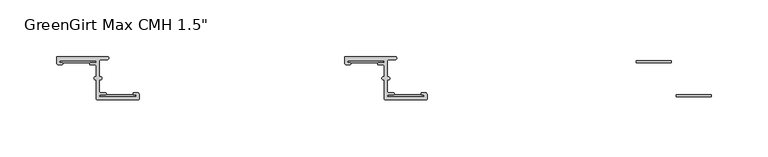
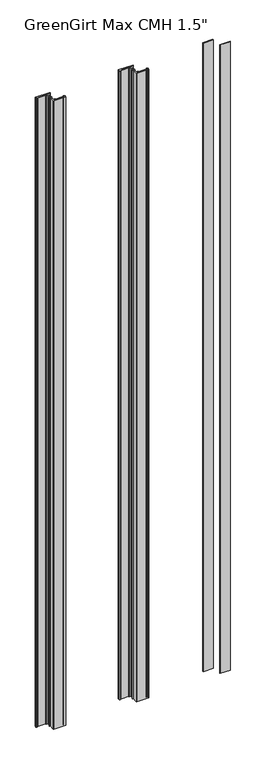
"""IFC4 building model written with IfcOpenShell, lengths in millimetres: fastener geometry."""

from ifc_helpers import new_model, si_unit, frame, origin, origin_with_axes, place, context, project, spatial, polyline, circle_curve, outline, extrude, source, transform, mapped, element, save
from ifc_brep_helpers import plane_surface, cylinder_surface, revolved_surface, advanced_brep


def fastener_929703bf(model_context):
    return source(origin(), model_context, "Body", "SolidModel", [
        extrude(outline(polyline([(1863.09, -3.556), (1863.09, -5.2832), (1832.102, -5.2832), (1832.102, -3.556), (1863.09, -3.556)])), origin_with_axes(), (0.0, 0.0, 1.0), 2032.0),
        extrude(outline(polyline([(1898.269, -33.7057766), (1898.269, -35.4329766), (1867.281, -35.4329766), (1867.281, -33.7057766), (1898.269, -33.7057766)])), origin_with_axes(), (0.0, 0.0, 1.0), 2032.0),
        advanced_brep(
        [(1578.102, -3.556, 2032.0), (1609.09, -3.556, 2032.0), (1609.09, -5.2832, 2032.0), (1604.899, -5.2832, 2032.0), (1604.899, -7.3152, 2032.0), (1609.09, -7.3152, 2032.0), (1609.852, -8.0772, 2032.0), (1609.852, -17.7601563, 2032.0), (1609.0035567, -17.7601563, 2032.0), (1609.0035567, -20.4288947, 2032.0), (1609.852, -20.4288947, 2032.0), (1609.852, -37.3379766, 2032.0), (1610.614, -38.0999766, 2032.0), (1646.8513242, -38.1, 2032.0), (1647.571, -37.3379766, 2032.0), (1647.571, -33.7057766, 2032.0), (1645.539, -31.6737766, 2032.0), (1643.253, -31.6737766, 2032.0), (1643.253, -33.7057766, 2032.0), (1644.269, -33.7057766, 2032.0), (1644.269, -35.4329766, 2032.0), (1613.281, -35.4329766, 2032.0), (1613.281, -33.7057766, 2032.0), (1617.472, -33.7057766, 2032.0), (1617.472, -31.6737766, 2032.0), (1613.281, -31.6737766, 2032.0), (1612.519, -30.9117766, 2032.0), (1612.519, -20.4279799, 2032.0), (1613.3679007, -20.4279799, 2032.0), (1613.3679007, -17.7601563, 2032.0), (1612.519, -17.7601563, 2032.0), (1612.519, -3.429, 2032.0), (1613.281, -2.667, 2032.0), (1619.377, -2.667, 2032.0), (1619.377, 0.0, 2032.0), (1575.562, 0.0, 2032.0), (1574.8, -0.762, 2032.0), (1574.8, -5.2832, 2032.0), (1576.832, -7.3152, 2032.0), (1579.118, -7.3152, 2032.0), (1579.118, -5.2832, 2032.0), (1578.102, -5.2832, 2032.0), (1578.102, -3.556, 0.0), (1578.102, -5.2832, 0.0), (1579.118, -5.2832, 0.0), (1579.118, -7.3152, 0.0), (1576.832, -7.3152, 0.0), (1574.8, -5.2832, 0.0), (1574.8, -0.762, 0.0), (1575.562, 0.0, 0.0), (1619.377, 0.0, 0.0), (1619.377, -2.667, 0.0), (1613.281, -2.667, 0.0), (1612.519, -3.429, 0.0), (1612.519, -17.7601563, 0.0), (1613.3679007, -17.7601563, 0.0), (1613.3679007, -20.4279799, 0.0), (1612.519, -20.4279799, 0.0), (1612.519, -30.9117766, 0.0), (1613.281, -31.6737766, 0.0), (1617.472, -31.6737766, 0.0), (1617.472, -33.7057766, 0.0), (1613.281, -33.7057766, 0.0), (1613.281, -35.4329766, 0.0), (1644.269, -35.4329766, 0.0), (1644.269, -33.7057766, 0.0), (1643.253, -33.7057766, 0.0), (1643.253, -31.6737766, 0.0), (1645.539, -31.6737766, 0.0), (1647.571, -33.7057766, 0.0), (1647.571, -37.3379766, 0.0), (1646.809, -38.0999766, 0.0), (1610.7467826, -38.1, 0.0), (1609.852, -37.3379766, 0.0), (1609.852, -20.4288947, 0.0), (1609.0035567, -20.4288947, 0.0), (1609.0035567, -17.7601563, 0.0), (1609.852, -17.7601563, 0.0), (1609.852, -8.0772, 0.0), (1609.09, -7.3152, 0.0), (1604.899, -7.3152, 0.0), (1604.899, -5.2832, 0.0), (1609.09, -5.2832, 0.0), (1609.09, -3.556, 0.0)],
        [
            (0, 1),
            (1, 2, circle_curve(frame((1609.09, -4.4196, 2032.0), z_axis=(0.0, 0.0, -1.0), x_axis=(1.0, 0.0, 0.0)), 0.8636)),
            (2, 3),
            (3, 4, circle_curve(frame((1604.899, -6.2992, 2032.0), z_axis=(0.0, 0.0, 1.0), x_axis=(1.0, 0.0, 0.0)), 1.016)),
            (4, 5),
            (5, 6, circle_curve(frame((1609.09, -8.0772, 2032.0), z_axis=(0.0, 0.0, -1.0), x_axis=(1.0, 0.0, 0.0)), 0.762)),
            (6, 7),
            (7, 8),
            (8, 9, circle_curve(frame((1609.0035567, -19.0945255, 2032.0), z_axis=(0.0, 0.0, 1.0), x_axis=(1.0, 0.0, 0.0)), 1.3343692)),
            (9, 10),
            (10, 11),
            (11, 12, circle_curve(frame((1610.614, -37.3379766, 2032.0), z_axis=(0.0, 0.0, 1.0), x_axis=(1.0, 0.0, 0.0)), 0.762)),
            (12, 13),
            (13, 14, circle_curve(frame((1646.809, -37.3379766, 2032.0), z_axis=(0.0, 0.0, 1.0), x_axis=(1.0, 0.0, 0.0)), 0.762)),
            (14, 15),
            (15, 16, circle_curve(frame((1645.539, -33.7057766, 2032.0), z_axis=(0.0, 0.0, 1.0), x_axis=(1.0, 0.0, 0.0)), 2.032)),
            (16, 17),
            (17, 18, circle_curve(frame((1643.253, -32.6897766, 2032.0), z_axis=(0.0, 0.0, 1.0), x_axis=(1.0, 0.0, 0.0)), 1.016)),
            (18, 19),
            (19, 20, circle_curve(frame((1644.269, -34.5693766, 2032.0), z_axis=(0.0, 0.0, -1.0), x_axis=(1.0, 0.0, 0.0)), 0.8636)),
            (20, 21),
            (21, 22, circle_curve(frame((1613.281, -34.5693766, 2032.0), z_axis=(0.0, 0.0, -1.0), x_axis=(1.0, 0.0, 0.0)), 0.8636)),
            (22, 23),
            (23, 24, circle_curve(frame((1617.472, -32.6897766, 2032.0), z_axis=(0.0, 0.0, 1.0), x_axis=(1.0, 0.0, 0.0)), 1.016)),
            (24, 25),
            (25, 26, circle_curve(frame((1613.281, -30.9117766, 2032.0), z_axis=(0.0, 0.0, -1.0), x_axis=(1.0, 0.0, 0.0)), 0.762)),
            (26, 27),
            (27, 28),
            (28, 29, circle_curve(frame((1613.3679007, -19.0940681, 2032.0), z_axis=(0.0, 0.0, 1.0), x_axis=(1.0, 0.0, 0.0)), 1.3339118)),
            (29, 30),
            (30, 31),
            (31, 32, circle_curve(frame((1613.281, -3.429, 2032.0), z_axis=(0.0, 0.0, -1.0), x_axis=(1.0, 0.0, 0.0)), 0.762)),
            (32, 33),
            (33, 34, circle_curve(frame((1619.377, -1.3335, 2032.0), z_axis=(0.0, 0.0, 1.0), x_axis=(1.0, 0.0, 0.0)), 1.3335)),
            (34, 35),
            (35, 36, circle_curve(frame((1575.562, -0.762, 2032.0), z_axis=(0.0, 0.0, 1.0), x_axis=(1.0, 0.0, 0.0)), 0.762)),
            (36, 37),
            (37, 38, circle_curve(frame((1576.832, -5.2832, 2032.0), z_axis=(0.0, 0.0, 1.0), x_axis=(1.0, 0.0, 0.0)), 2.032)),
            (38, 39),
            (39, 40, circle_curve(frame((1579.118, -6.2992, 2032.0), z_axis=(0.0, 0.0, 1.0), x_axis=(1.0, 0.0, 0.0)), 1.016)),
            (40, 41),
            (41, 0, circle_curve(frame((1578.102, -4.4196, 2032.0), z_axis=(0.0, 0.0, -1.0), x_axis=(1.0, 0.0, 0.0)), 0.8636)),
            (42, 43, circle_curve(frame((1578.102, -4.4196, 0.0), z_axis=(0.0, 0.0, 1.0), x_axis=(1.0, 0.0, 0.0)), 0.8636)),
            (43, 44),
            (44, 45, circle_curve(frame((1579.118, -6.2992, 0.0), z_axis=(0.0, 0.0, -1.0), x_axis=(1.0, 0.0, 0.0)), 1.016)),
            (45, 46),
            (46, 47, circle_curve(frame((1576.832, -5.2832, 0.0), z_axis=(0.0, 0.0, -1.0), x_axis=(1.0, 0.0, 0.0)), 2.032)),
            (47, 48),
            (48, 49, circle_curve(frame((1575.562, -0.762, 0.0), z_axis=(0.0, 0.0, -1.0), x_axis=(1.0, 0.0, 0.0)), 0.762)),
            (49, 50),
            (50, 51, circle_curve(frame((1619.377, -1.3335, 0.0), z_axis=(0.0, 0.0, -1.0), x_axis=(1.0, 0.0, 0.0)), 1.3335)),
            (51, 52),
            (52, 53, circle_curve(frame((1613.281, -3.429, 0.0), z_axis=(0.0, 0.0, 1.0), x_axis=(1.0, 0.0, 0.0)), 0.762)),
            (53, 54),
            (54, 55),
            (55, 56, circle_curve(frame((1613.3679007, -19.0940681, 0.0), z_axis=(0.0, 0.0, -1.0), x_axis=(1.0, 0.0, 0.0)), 1.3339118)),
            (56, 57),
            (57, 58),
            (58, 59, circle_curve(frame((1613.281, -30.9117766, 0.0), z_axis=(0.0, 0.0, 1.0), x_axis=(1.0, 0.0, 0.0)), 0.762)),
            (59, 60),
            (60, 61, circle_curve(frame((1617.472, -32.6897766, 0.0), z_axis=(0.0, 0.0, -1.0), x_axis=(1.0, 0.0, 0.0)), 1.016)),
            (61, 62),
            (62, 63, circle_curve(frame((1613.281, -34.5693766, 0.0), z_axis=(0.0, 0.0, 1.0), x_axis=(1.0, 0.0, 0.0)), 0.8636)),
            (63, 64),
            (64, 65, circle_curve(frame((1644.269, -34.5693766, 0.0), z_axis=(0.0, 0.0, 1.0), x_axis=(1.0, 0.0, 0.0)), 0.8636)),
            (65, 66),
            (66, 67, circle_curve(frame((1643.253, -32.6897766, 0.0), z_axis=(0.0, 0.0, -1.0), x_axis=(1.0, 0.0, 0.0)), 1.016)),
            (67, 68),
            (68, 69, circle_curve(frame((1645.539, -33.7057766, 0.0), z_axis=(0.0, 0.0, -1.0), x_axis=(1.0, 0.0, 0.0)), 2.032)),
            (69, 70),
            (70, 71, circle_curve(frame((1646.809, -37.3379766, 0.0), z_axis=(0.0, 0.0, -1.0), x_axis=(1.0, 0.0, 0.0)), 0.762)),
            (71, 72),
            (72, 73, circle_curve(frame((1610.614, -37.3379766, 0.0), z_axis=(0.0, 0.0, -1.0), x_axis=(1.0, 0.0, 0.0)), 0.762)),
            (73, 74),
            (74, 75),
            (75, 76, circle_curve(frame((1609.0035567, -19.0945255, 0.0), z_axis=(0.0, 0.0, -1.0), x_axis=(1.0, 0.0, 0.0)), 1.3343692)),
            (76, 77),
            (77, 78),
            (78, 79, circle_curve(frame((1609.09, -8.0772, 0.0), z_axis=(0.0, 0.0, 1.0), x_axis=(1.0, 0.0, 0.0)), 0.762)),
            (79, 80),
            (80, 81, circle_curve(frame((1604.899, -6.2992, 0.0), z_axis=(0.0, 0.0, -1.0), x_axis=(1.0, 0.0, 0.0)), 1.016)),
            (81, 82),
            (82, 83, circle_curve(frame((1609.09, -4.4196, 0.0), z_axis=(0.0, 0.0, 1.0), x_axis=(1.0, 0.0, 0.0)), 0.8636)),
            (83, 42),
            (0, 42),
            (83, 1),
            (82, 2),
            (81, 3),
            (80, 4),
            (79, 5),
            (78, 6),
            (77, 7),
            (76, 8),
            (75, 9),
            (74, 10),
            (73, 11),
            (72, 12),
            (71, 13),
            (70, 14),
            (69, 15),
            (68, 16),
            (67, 17),
            (66, 18),
            (65, 19),
            (64, 20),
            (63, 21),
            (62, 22),
            (61, 23),
            (60, 24),
            (59, 25),
            (58, 26),
            (57, 27),
            (56, 28),
            (55, 29),
            (54, 30),
            (53, 31),
            (52, 32),
            (51, 33),
            (50, 34),
            (49, 35),
            (48, 36),
            (47, 37),
            (46, 38),
            (45, 39),
            (44, 40),
            (43, 41),
        ],
        [
            plane_surface(frame((1609.09, -3.556, 2032.0), z_axis=(0.0, 0.0, 1.0), x_axis=(1.0, 0.0, 0.0))),
            plane_surface(frame((1609.09, -3.556, 0.0), z_axis=(0.0, 0.0, -1.0), x_axis=(-1.0, 0.0, 0.0))),
            plane_surface(frame((1578.102, -3.556, 2032.0), z_axis=(0.0, -1.0, 0.0), x_axis=(0.0, 0.0, -1.0))),
            revolved_surface(polyline([(1609.9535999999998, -4.4196, 0.0), (1609.9535999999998, -4.4196, 2032.0)]), (1609.09, -4.4196, 0.0), (0.0, 0.0, -1.0)),
            plane_surface(frame((1609.09, -5.2832, 2032.0), z_axis=(0.0, 1.0, 0.0), x_axis=(0.0, 0.0, -1.0))),
            cylinder_surface(frame((1604.899, -6.2992, 0.0), z_axis=(0.0, 0.0, 1.0), x_axis=(1.0, 0.0, 0.0)), 1.016),
            plane_surface(frame((1604.899, -7.3152, 2032.0), z_axis=(0.0, -1.0, 0.0), x_axis=(0.0, 0.0, -1.0))),
            revolved_surface(polyline([(1609.8519999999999, -8.0772, 0.0), (1609.8519999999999, -8.0772, 2032.0)]), (1609.09, -8.0772, 0.0), (0.0, 0.0, -1.0)),
            plane_surface(frame((1609.852, -8.0772, 2032.0), z_axis=(-1.0, 0.0, 0.0), x_axis=(0.0, 0.0, -1.0))),
            plane_surface(frame((1609.852, -17.7601563, 2032.0), z_axis=(0.0, 1.0, 0.0), x_axis=(0.0, 0.0, -1.0))),
            cylinder_surface(frame((1609.0035567, -19.0945255, 0.0), z_axis=(0.0, 0.0, 1.0), x_axis=(1.0, 0.0, 0.0)), 1.3343692),
            plane_surface(frame((1609.0035567, -20.4288947, 2032.0), z_axis=(0.0, -1.0, 0.0), x_axis=(0.0, 0.0, -1.0))),
            plane_surface(frame((1609.852, -20.4288947, 2032.0), z_axis=(-1.0, 0.0, 0.0), x_axis=(0.0, 0.0, -1.0))),
            cylinder_surface(frame((1610.614, -37.3379766, 0.0), z_axis=(0.0, 0.0, 1.0), x_axis=(1.0, 0.0, 0.0)), 0.762),
            plane_surface(frame((1610.7467826, -38.1, 2032.0), z_axis=(0.0, -1.0, 0.0), x_axis=(0.0, 0.0, -1.0))),
            cylinder_surface(frame((1646.809, -37.3379766, 0.0), z_axis=(0.0, 0.0, 1.0), x_axis=(1.0, 0.0, 0.0)), 0.762),
            plane_surface(frame((1647.571, -37.3379766, 2032.0), z_axis=(1.0, 1.094695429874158e-12, 0.0), x_axis=(0.0, 0.0, -1.0))),
            cylinder_surface(frame((1645.539, -33.7057766, 0.0), z_axis=(0.0, 0.0, 1.0), x_axis=(1.0, 0.0, 0.0)), 2.032),
            plane_surface(frame((1645.539, -31.6737766, 2032.0), z_axis=(0.0, 1.0, 0.0), x_axis=(0.0, 0.0, -1.0))),
            cylinder_surface(frame((1643.253, -32.6897766, 0.0), z_axis=(0.0, 0.0, 1.0), x_axis=(1.0, 0.0, 0.0)), 1.016),
            plane_surface(frame((1643.253, -33.7057766, 2032.0), z_axis=(0.0, -1.0, 0.0), x_axis=(0.0, 0.0, -1.0))),
            revolved_surface(polyline([(1645.1326, -34.5693766, 0.0), (1645.1326, -34.5693766, 2032.0)]), (1644.269, -34.5693766, 0.0), (0.0, 0.0, -1.0)),
            plane_surface(frame((1644.269, -35.4329766, 2032.0), z_axis=(0.0, 1.0, 0.0), x_axis=(0.0, 0.0, -1.0))),
            revolved_surface(polyline([(1614.1445999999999, -34.5693766, 0.0), (1614.1445999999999, -34.5693766, 2032.0)]), (1613.281, -34.5693766, 0.0), (0.0, 0.0, -1.0)),
            plane_surface(frame((1613.281, -33.7057766, 2032.0), z_axis=(0.0, -1.0, 0.0), x_axis=(0.0, 0.0, -1.0))),
            cylinder_surface(frame((1617.472, -32.6897766, 0.0), z_axis=(0.0, 0.0, 1.0), x_axis=(1.0, 0.0, 0.0)), 1.016),
            plane_surface(frame((1617.472, -31.6737766, 2032.0), z_axis=(0.0, 1.0, 0.0), x_axis=(0.0, 0.0, -1.0))),
            revolved_surface(polyline([(1614.043, -30.9117766, 0.0), (1614.043, -30.9117766, 2032.0)]), (1613.281, -30.9117766, 0.0), (0.0, 0.0, -1.0)),
            plane_surface(frame((1612.519, -30.9117766, 2032.0), z_axis=(1.0, 0.0, 0.0), x_axis=(0.0, 0.0, -1.0))),
            plane_surface(frame((1612.519, -20.4279799, 2032.0), z_axis=(0.0, -1.0, 0.0), x_axis=(0.0, 0.0, -1.0))),
            cylinder_surface(frame((1613.3679007, -19.0940681, 0.0), z_axis=(0.0, 0.0, 1.0), x_axis=(1.0, 0.0, 0.0)), 1.3339118),
            plane_surface(frame((1613.3679007, -17.7601563, 2032.0), z_axis=(0.0, 1.0, 0.0), x_axis=(0.0, 0.0, -1.0))),
            plane_surface(frame((1612.519, -17.7601563, 2032.0), z_axis=(1.0, 0.0, 0.0), x_axis=(0.0, 0.0, -1.0))),
            revolved_surface(polyline([(1614.043, -3.429, 0.0), (1614.043, -3.429, 2032.0)]), (1613.281, -3.429, 0.0), (0.0, 0.0, -1.0)),
            plane_surface(frame((1613.281, -2.667, 2032.0), z_axis=(0.0, -1.0, 0.0), x_axis=(0.0, 0.0, -1.0))),
            cylinder_surface(frame((1619.377, -1.3335, 0.0), z_axis=(0.0, 0.0, 1.0), x_axis=(1.0, 0.0, 0.0)), 1.3335),
            plane_surface(frame((1619.377, 0.0, 2032.0), z_axis=(0.0, 1.0, 0.0), x_axis=(0.0, 0.0, -1.0))),
            cylinder_surface(frame((1575.562, -0.762, 0.0), z_axis=(0.0, 0.0, 1.0), x_axis=(1.0, 0.0, 0.0)), 0.762),
            plane_surface(frame((1574.8, -0.762, 2032.0), z_axis=(-1.0, 1.1909948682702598e-12, 0.0), x_axis=(0.0, 0.0, -1.0))),
            cylinder_surface(frame((1576.832, -5.2832, 0.0), z_axis=(0.0, 0.0, 1.0), x_axis=(1.0, 0.0, 0.0)), 2.032),
            plane_surface(frame((1576.832, -7.3152, 2032.0), z_axis=(0.0, -1.0, 0.0), x_axis=(0.0, 0.0, -1.0))),
            cylinder_surface(frame((1579.118, -6.2992, 0.0), z_axis=(0.0, 0.0, 1.0), x_axis=(1.0, 0.0, 0.0)), 1.016),
            plane_surface(frame((1579.118, -5.2832, 2032.0), z_axis=(0.0, 1.0, 0.0), x_axis=(0.0, 0.0, -1.0))),
            revolved_surface(polyline([(1578.9656, -4.4196, 0.0), (1578.9656, -4.4196, 2032.0)]), (1578.102, -4.4196, 0.0), (0.0, 0.0, -1.0)),
        ],
        [
            (0, [[1, 2, 3, 4, 5, 6, 7, 8, 9, 10, 11, 12, 13, 14, 15, 16, 17, 18, 19, 20, 21, 22, 23, 24, 25, 26, 27, 28, 29, 30, 31, 32, 33, 34, 35, 36, 37, 38, 39, 40, 41, 42]]),
            (1, [[43, 44, 45, 46, 47, 48, 49, 50, 51, 52, 53, 54, 55, 56, 57, 58, 59, 60, 61, 62, 63, 64, 65, 66, 67, 68, 69, 70, 71, 72, 73, 74, 75, 76, 77, 78, 79, 80, 81, 82, 83, 84]]),
            (2, [[-1, 85, -84, 86]]),
            (3, [[-2, -86, -83, 87]]),
            (4, [[-3, -87, -82, 88]]),
            (5, [[-4, -88, -81, 89]]),
            (6, [[-5, -89, -80, 90]]),
            (7, [[-6, -90, -79, 91]]),
            (8, [[-7, -91, -78, 92]]),
            (9, [[-8, -92, -77, 93]]),
            (10, [[-9, -93, -76, 94]]),
            (11, [[-10, -94, -75, 95]]),
            (12, [[-11, -95, -74, 96]]),
            (13, [[-12, -96, -73, 97]]),
            (14, [[-13, -97, -72, 98]]),
            (15, [[-14, -98, -71, 99]]),
            (16, [[-15, -99, -70, 100]]),
            (17, [[-16, -100, -69, 101]]),
            (18, [[-17, -101, -68, 102]]),
            (19, [[-18, -102, -67, 103]]),
            (20, [[-19, -103, -66, 104]]),
            (21, [[-20, -104, -65, 105]]),
            (22, [[-21, -105, -64, 106]]),
            (23, [[-22, -106, -63, 107]]),
            (24, [[-23, -107, -62, 108]]),
            (25, [[-24, -108, -61, 109]]),
            (26, [[-25, -109, -60, 110]]),
            (27, [[-26, -110, -59, 111]]),
            (28, [[-27, -111, -58, 112]]),
            (29, [[-28, -112, -57, 113]]),
            (30, [[-29, -113, -56, 114]]),
            (31, [[-30, -114, -55, 115]]),
            (32, [[-31, -115, -54, 116]]),
            (33, [[-32, -116, -53, 117]]),
            (34, [[-33, -117, -52, 118]]),
            (35, [[-34, -118, -51, 119]]),
            (36, [[-35, -119, -50, 120]]),
            (37, [[-36, -120, -49, 121]]),
            (38, [[-37, -121, -48, 122]]),
            (39, [[-38, -122, -47, 123]]),
            (40, [[-39, -123, -46, 124]]),
            (41, [[-40, -124, -45, 125]]),
            (42, [[-41, -125, -44, 126]]),
            (43, [[-42, -126, -43, -85]]),
        ],
    ),
        extrude(outline(polyline([(1609.09, -3.556), (1609.09, -5.2832), (1578.102, -5.2832), (1578.102, -3.556), (1609.09, -3.556)])), origin_with_axes(), (0.0, 0.0, 1.0), 2032.0),
        extrude(outline(polyline([(1644.269, -33.7057766), (1644.269, -35.4329766), (1613.281, -35.4329766), (1613.281, -33.7057766), (1644.269, -33.7057766)])), origin_with_axes(), (0.0, 0.0, 1.0), 2032.0),
        advanced_brep(
        [(1324.102, -3.556, 2032.0), (1355.09, -3.556, 2032.0), (1355.09, -5.2832, 2032.0), (1350.899, -5.2832, 2032.0), (1350.899, -7.3152, 2032.0), (1355.09, -7.3152, 2032.0), (1355.852, -8.0772, 2032.0), (1355.852, -17.7601563, 2032.0), (1355.0035567, -17.7601563, 2032.0), (1355.0035567, -20.4288947, 2032.0), (1355.852, -20.4288947, 2032.0), (1355.852, -37.3379766, 2032.0), (1356.614, -38.0999766, 2032.0), (1392.8513242, -38.1, 2032.0), (1393.571, -37.3379766, 2032.0), (1393.571, -33.7057766, 2032.0), (1391.539, -31.6737766, 2032.0), (1389.253, -31.6737766, 2032.0), (1389.253, -33.7057766, 2032.0), (1390.269, -33.7057766, 2032.0), (1390.269, -35.4329766, 2032.0), (1359.281, -35.4329766, 2032.0), (1359.281, -33.7057766, 2032.0), (1363.472, -33.7057766, 2032.0), (1363.472, -31.6737766, 2032.0), (1359.281, -31.6737766, 2032.0), (1358.519, -30.9117766, 2032.0), (1358.519, -20.4279799, 2032.0), (1359.3679007, -20.4279799, 2032.0), (1359.3679007, -17.7601563, 2032.0), (1358.519, -17.7601563, 2032.0), (1358.519, -3.429, 2032.0), (1359.281, -2.667, 2032.0), (1365.377, -2.667, 2032.0), (1365.377, 0.0, 2032.0), (1321.562, 0.0, 2032.0), (1320.8, -0.762, 2032.0), (1320.8, -5.2832, 2032.0), (1322.832, -7.3152, 2032.0), (1325.118, -7.3152, 2032.0), (1325.118, -5.2832, 2032.0), (1324.102, -5.2832, 2032.0), (1324.102, -3.556, 0.0), (1324.102, -5.2832, 0.0), (1325.118, -5.2832, 0.0), (1325.118, -7.3152, 0.0), (1322.832, -7.3152, 0.0), (1320.8, -5.2832, 0.0), (1320.8, -0.762, 0.0), (1321.562, 0.0, 0.0), (1365.377, 0.0, 0.0), (1365.377, -2.667, 0.0), (1359.281, -2.667, 0.0), (1358.519, -3.429, 0.0), (1358.519, -17.7601563, 0.0), (1359.3679007, -17.7601563, 0.0), (1359.3679007, -20.4279799, 0.0), (1358.519, -20.4279799, 0.0), (1358.519, -30.9117766, 0.0), (1359.281, -31.6737766, 0.0), (1363.472, -31.6737766, 0.0), (1363.472, -33.7057766, 0.0), (1359.281, -33.7057766, 0.0), (1359.281, -35.4329766, 0.0), (1390.269, -35.4329766, 0.0), (1390.269, -33.7057766, 0.0), (1389.253, -33.7057766, 0.0), (1389.253, -31.6737766, 0.0), (1391.539, -31.6737766, 0.0), (1393.571, -33.7057766, 0.0), (1393.571, -37.3379766, 0.0), (1392.809, -38.0999766, 0.0), (1356.7467826, -38.1, 0.0), (1355.852, -37.3379766, 0.0), (1355.852, -20.4288947, 0.0), (1355.0035567, -20.4288947, 0.0), (1355.0035567, -17.7601563, 0.0), (1355.852, -17.7601563, 0.0), (1355.852, -8.0772, 0.0), (1355.09, -7.3152, 0.0), (1350.899, -7.3152, 0.0), (1350.899, -5.2832, 0.0), (1355.09, -5.2832, 0.0), (1355.09, -3.556, 0.0)],
        [
            (0, 1),
            (1, 2, circle_curve(frame((1355.09, -4.4196, 2032.0), z_axis=(0.0, 0.0, -1.0), x_axis=(1.0, 0.0, 0.0)), 0.8636)),
            (2, 3),
            (3, 4, circle_curve(frame((1350.899, -6.2992, 2032.0), z_axis=(0.0, 0.0, 1.0), x_axis=(1.0, 0.0, 0.0)), 1.016)),
            (4, 5),
            (5, 6, circle_curve(frame((1355.09, -8.0772, 2032.0), z_axis=(0.0, 0.0, -1.0), x_axis=(1.0, 0.0, 0.0)), 0.762)),
            (6, 7),
            (7, 8),
            (8, 9, circle_curve(frame((1355.0035567, -19.0945255, 2032.0), z_axis=(0.0, 0.0, 1.0), x_axis=(1.0, 0.0, 0.0)), 1.3343692)),
            (9, 10),
            (10, 11),
            (11, 12, circle_curve(frame((1356.614, -37.3379766, 2032.0), z_axis=(0.0, 0.0, 1.0), x_axis=(1.0, 0.0, 0.0)), 0.762)),
            (12, 13),
            (13, 14, circle_curve(frame((1392.809, -37.3379766, 2032.0), z_axis=(0.0, 0.0, 1.0), x_axis=(1.0, 0.0, 0.0)), 0.762)),
            (14, 15),
            (15, 16, circle_curve(frame((1391.539, -33.7057766, 2032.0), z_axis=(0.0, 0.0, 1.0), x_axis=(1.0, 0.0, 0.0)), 2.032)),
            (16, 17),
            (17, 18, circle_curve(frame((1389.253, -32.6897766, 2032.0), z_axis=(0.0, 0.0, 1.0), x_axis=(1.0, 0.0, 0.0)), 1.016)),
            (18, 19),
            (19, 20, circle_curve(frame((1390.269, -34.5693766, 2032.0), z_axis=(0.0, 0.0, -1.0), x_axis=(1.0, 0.0, 0.0)), 0.8636)),
            (20, 21),
            (21, 22, circle_curve(frame((1359.281, -34.5693766, 2032.0), z_axis=(0.0, 0.0, -1.0), x_axis=(1.0, 0.0, 0.0)), 0.8636)),
            (22, 23),
            (23, 24, circle_curve(frame((1363.472, -32.6897766, 2032.0), z_axis=(0.0, 0.0, 1.0), x_axis=(1.0, 0.0, 0.0)), 1.016)),
            (24, 25),
            (25, 26, circle_curve(frame((1359.281, -30.9117766, 2032.0), z_axis=(0.0, 0.0, -1.0), x_axis=(1.0, 0.0, 0.0)), 0.762)),
            (26, 27),
            (27, 28),
            (28, 29, circle_curve(frame((1359.3679007, -19.0940681, 2032.0), z_axis=(0.0, 0.0, 1.0), x_axis=(1.0, 0.0, 0.0)), 1.3339118)),
            (29, 30),
            (30, 31),
            (31, 32, circle_curve(frame((1359.281, -3.429, 2032.0), z_axis=(0.0, 0.0, -1.0), x_axis=(1.0, 0.0, 0.0)), 0.762)),
            (32, 33),
            (33, 34, circle_curve(frame((1365.377, -1.3335, 2032.0), z_axis=(0.0, 0.0, 1.0), x_axis=(1.0, 0.0, 0.0)), 1.3335)),
            (34, 35),
            (35, 36, circle_curve(frame((1321.562, -0.762, 2032.0), z_axis=(0.0, 0.0, 1.0), x_axis=(1.0, 0.0, 0.0)), 0.762)),
            (36, 37),
            (37, 38, circle_curve(frame((1322.832, -5.2832, 2032.0), z_axis=(0.0, 0.0, 1.0), x_axis=(1.0, 0.0, 0.0)), 2.032)),
            (38, 39),
            (39, 40, circle_curve(frame((1325.118, -6.2992, 2032.0), z_axis=(0.0, 0.0, 1.0), x_axis=(1.0, 0.0, 0.0)), 1.016)),
            (40, 41),
            (41, 0, circle_curve(frame((1324.102, -4.4196, 2032.0), z_axis=(0.0, 0.0, -1.0), x_axis=(1.0, 0.0, 0.0)), 0.8636)),
            (42, 43, circle_curve(frame((1324.102, -4.4196, 0.0), z_axis=(0.0, 0.0, 1.0), x_axis=(1.0, 0.0, 0.0)), 0.8636)),
            (43, 44),
            (44, 45, circle_curve(frame((1325.118, -6.2992, 0.0), z_axis=(0.0, 0.0, -1.0), x_axis=(1.0, 0.0, 0.0)), 1.016)),
            (45, 46),
            (46, 47, circle_curve(frame((1322.832, -5.2832, 0.0), z_axis=(0.0, 0.0, -1.0), x_axis=(1.0, 0.0, 0.0)), 2.032)),
            (47, 48),
            (48, 49, circle_curve(frame((1321.562, -0.762, 0.0), z_axis=(0.0, 0.0, -1.0), x_axis=(1.0, 0.0, 0.0)), 0.762)),
            (49, 50),
            (50, 51, circle_curve(frame((1365.377, -1.3335, 0.0), z_axis=(0.0, 0.0, -1.0), x_axis=(1.0, 0.0, 0.0)), 1.3335)),
            (51, 52),
            (52, 53, circle_curve(frame((1359.281, -3.429, 0.0), z_axis=(0.0, 0.0, 1.0), x_axis=(1.0, 0.0, 0.0)), 0.762)),
            (53, 54),
            (54, 55),
            (55, 56, circle_curve(frame((1359.3679007, -19.0940681, 0.0), z_axis=(0.0, 0.0, -1.0), x_axis=(1.0, 0.0, 0.0)), 1.3339118)),
            (56, 57),
            (57, 58),
            (58, 59, circle_curve(frame((1359.281, -30.9117766, 0.0), z_axis=(0.0, 0.0, 1.0), x_axis=(1.0, 0.0, 0.0)), 0.762)),
            (59, 60),
            (60, 61, circle_curve(frame((1363.472, -32.6897766, 0.0), z_axis=(0.0, 0.0, -1.0), x_axis=(1.0, 0.0, 0.0)), 1.016)),
            (61, 62),
            (62, 63, circle_curve(frame((1359.281, -34.5693766, 0.0), z_axis=(0.0, 0.0, 1.0), x_axis=(1.0, 0.0, 0.0)), 0.8636)),
            (63, 64),
            (64, 65, circle_curve(frame((1390.269, -34.5693766, 0.0), z_axis=(0.0, 0.0, 1.0), x_axis=(1.0, 0.0, 0.0)), 0.8636)),
            (65, 66),
            (66, 67, circle_curve(frame((1389.253, -32.6897766, 0.0), z_axis=(0.0, 0.0, -1.0), x_axis=(1.0, 0.0, 0.0)), 1.016)),
            (67, 68),
            (68, 69, circle_curve(frame((1391.539, -33.7057766, 0.0), z_axis=(0.0, 0.0, -1.0), x_axis=(1.0, 0.0, 0.0)), 2.032)),
            (69, 70),
            (70, 71, circle_curve(frame((1392.809, -37.3379766, 0.0), z_axis=(0.0, 0.0, -1.0), x_axis=(1.0, 0.0, 0.0)), 0.762)),
            (71, 72),
            (72, 73, circle_curve(frame((1356.614, -37.3379766, 0.0), z_axis=(0.0, 0.0, -1.0), x_axis=(1.0, 0.0, 0.0)), 0.762)),
            (73, 74),
            (74, 75),
            (75, 76, circle_curve(frame((1355.0035567, -19.0945255, 0.0), z_axis=(0.0, 0.0, -1.0), x_axis=(1.0, 0.0, 0.0)), 1.3343692)),
            (76, 77),
            (77, 78),
            (78, 79, circle_curve(frame((1355.09, -8.0772, 0.0), z_axis=(0.0, 0.0, 1.0), x_axis=(1.0, 0.0, 0.0)), 0.762)),
            (79, 80),
            (80, 81, circle_curve(frame((1350.899, -6.2992, 0.0), z_axis=(0.0, 0.0, -1.0), x_axis=(1.0, 0.0, 0.0)), 1.016)),
            (81, 82),
            (82, 83, circle_curve(frame((1355.09, -4.4196, 0.0), z_axis=(0.0, 0.0, 1.0), x_axis=(1.0, 0.0, 0.0)), 0.8636)),
            (83, 42),
            (0, 42),
            (83, 1),
            (82, 2),
            (81, 3),
            (80, 4),
            (79, 5),
            (78, 6),
            (77, 7),
            (76, 8),
            (75, 9),
            (74, 10),
            (73, 11),
            (72, 12),
            (71, 13),
            (70, 14),
            (69, 15),
            (68, 16),
            (67, 17),
            (66, 18),
            (65, 19),
            (64, 20),
            (63, 21),
            (62, 22),
            (61, 23),
            (60, 24),
            (59, 25),
            (58, 26),
            (57, 27),
            (56, 28),
            (55, 29),
            (54, 30),
            (53, 31),
            (52, 32),
            (51, 33),
            (50, 34),
            (49, 35),
            (48, 36),
            (47, 37),
            (46, 38),
            (45, 39),
            (44, 40),
            (43, 41),
        ],
        [
            plane_surface(frame((1355.09, -3.556, 2032.0), z_axis=(0.0, 0.0, 1.0), x_axis=(1.0, 0.0, 0.0))),
            plane_surface(frame((1355.09, -3.556, 0.0), z_axis=(0.0, 0.0, -1.0), x_axis=(-1.0, 0.0, 0.0))),
            plane_surface(frame((1324.102, -3.556, 2032.0), z_axis=(0.0, -1.0, 0.0), x_axis=(0.0, 0.0, -1.0))),
            revolved_surface(polyline([(1355.9535999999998, -4.4196, 0.0), (1355.9535999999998, -4.4196, 2032.0)]), (1355.09, -4.4196, 0.0), (0.0, 0.0, -1.0)),
            plane_surface(frame((1355.09, -5.2832, 2032.0), z_axis=(0.0, 1.0, 0.0), x_axis=(0.0, 0.0, -1.0))),
            cylinder_surface(frame((1350.899, -6.2992, 0.0), z_axis=(0.0, 0.0, 1.0), x_axis=(1.0, 0.0, 0.0)), 1.016),
            plane_surface(frame((1350.899, -7.3152, 2032.0), z_axis=(0.0, -1.0, 0.0), x_axis=(0.0, 0.0, -1.0))),
            revolved_surface(polyline([(1355.8519999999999, -8.0772, 0.0), (1355.8519999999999, -8.0772, 2032.0)]), (1355.09, -8.0772, 0.0), (0.0, 0.0, -1.0)),
            plane_surface(frame((1355.852, -8.0772, 2032.0), z_axis=(-1.0, 0.0, 0.0), x_axis=(0.0, 0.0, -1.0))),
            plane_surface(frame((1355.852, -17.7601563, 2032.0), z_axis=(0.0, 1.0, 0.0), x_axis=(0.0, 0.0, -1.0))),
            cylinder_surface(frame((1355.0035567, -19.0945255, 0.0), z_axis=(0.0, 0.0, 1.0), x_axis=(1.0, 0.0, 0.0)), 1.3343692),
            plane_surface(frame((1355.0035567, -20.4288947, 2032.0), z_axis=(0.0, -1.0, 0.0), x_axis=(0.0, 0.0, -1.0))),
            plane_surface(frame((1355.852, -20.4288947, 2032.0), z_axis=(-1.0, 0.0, 0.0), x_axis=(0.0, 0.0, -1.0))),
            cylinder_surface(frame((1356.614, -37.3379766, 0.0), z_axis=(0.0, 0.0, 1.0), x_axis=(1.0, 0.0, 0.0)), 0.762),
            plane_surface(frame((1356.7467826, -38.1, 2032.0), z_axis=(0.0, -1.0, 0.0), x_axis=(0.0, 0.0, -1.0))),
            cylinder_surface(frame((1392.809, -37.3379766, 0.0), z_axis=(0.0, 0.0, 1.0), x_axis=(1.0, 0.0, 0.0)), 0.762),
            plane_surface(frame((1393.571, -37.3379766, 2032.0), z_axis=(1.0, 1.094695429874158e-12, 0.0), x_axis=(0.0, 0.0, -1.0))),
            cylinder_surface(frame((1391.539, -33.7057766, 0.0), z_axis=(0.0, 0.0, 1.0), x_axis=(1.0, 0.0, 0.0)), 2.032),
            plane_surface(frame((1391.539, -31.6737766, 2032.0), z_axis=(0.0, 1.0, 0.0), x_axis=(0.0, 0.0, -1.0))),
            cylinder_surface(frame((1389.253, -32.6897766, 0.0), z_axis=(0.0, 0.0, 1.0), x_axis=(1.0, 0.0, 0.0)), 1.016),
            plane_surface(frame((1389.253, -33.7057766, 2032.0), z_axis=(0.0, -1.0, 0.0), x_axis=(0.0, 0.0, -1.0))),
            revolved_surface(polyline([(1391.1326, -34.5693766, 0.0), (1391.1326, -34.5693766, 2032.0)]), (1390.269, -34.5693766, 0.0), (0.0, 0.0, -1.0)),
            plane_surface(frame((1390.269, -35.4329766, 2032.0), z_axis=(0.0, 1.0, 0.0), x_axis=(0.0, 0.0, -1.0))),
            revolved_surface(polyline([(1360.1445999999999, -34.5693766, 0.0), (1360.1445999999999, -34.5693766, 2032.0)]), (1359.281, -34.5693766, 0.0), (0.0, 0.0, -1.0)),
            plane_surface(frame((1359.281, -33.7057766, 2032.0), z_axis=(0.0, -1.0, 0.0), x_axis=(0.0, 0.0, -1.0))),
            cylinder_surface(frame((1363.472, -32.6897766, 0.0), z_axis=(0.0, 0.0, 1.0), x_axis=(1.0, 0.0, 0.0)), 1.016),
            plane_surface(frame((1363.472, -31.6737766, 2032.0), z_axis=(0.0, 1.0, 0.0), x_axis=(0.0, 0.0, -1.0))),
            revolved_surface(polyline([(1360.043, -30.9117766, 0.0), (1360.043, -30.9117766, 2032.0)]), (1359.281, -30.9117766, 0.0), (0.0, 0.0, -1.0)),
            plane_surface(frame((1358.519, -30.9117766, 2032.0), z_axis=(1.0, 0.0, 0.0), x_axis=(0.0, 0.0, -1.0))),
            plane_surface(frame((1358.519, -20.4279799, 2032.0), z_axis=(0.0, -1.0, 0.0), x_axis=(0.0, 0.0, -1.0))),
            cylinder_surface(frame((1359.3679007, -19.0940681, 0.0), z_axis=(0.0, 0.0, 1.0), x_axis=(1.0, 0.0, 0.0)), 1.3339118),
            plane_surface(frame((1359.3679007, -17.7601563, 2032.0), z_axis=(0.0, 1.0, 0.0), x_axis=(0.0, 0.0, -1.0))),
            plane_surface(frame((1358.519, -17.7601563, 2032.0), z_axis=(1.0, 0.0, 0.0), x_axis=(0.0, 0.0, -1.0))),
            revolved_surface(polyline([(1360.043, -3.429, 0.0), (1360.043, -3.429, 2032.0)]), (1359.281, -3.429, 0.0), (0.0, 0.0, -1.0)),
            plane_surface(frame((1359.281, -2.667, 2032.0), z_axis=(0.0, -1.0, 0.0), x_axis=(0.0, 0.0, -1.0))),
            cylinder_surface(frame((1365.377, -1.3335, 0.0), z_axis=(0.0, 0.0, 1.0), x_axis=(1.0, 0.0, 0.0)), 1.3335),
            plane_surface(frame((1365.377, 0.0, 2032.0), z_axis=(0.0, 1.0, 0.0), x_axis=(0.0, 0.0, -1.0))),
            cylinder_surface(frame((1321.562, -0.762, 0.0), z_axis=(0.0, 0.0, 1.0), x_axis=(1.0, 0.0, 0.0)), 0.762),
            plane_surface(frame((1320.8, -0.762, 2032.0), z_axis=(-1.0, 1.1909948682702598e-12, 0.0), x_axis=(0.0, 0.0, -1.0))),
            cylinder_surface(frame((1322.832, -5.2832, 0.0), z_axis=(0.0, 0.0, 1.0), x_axis=(1.0, 0.0, 0.0)), 2.032),
            plane_surface(frame((1322.832, -7.3152, 2032.0), z_axis=(0.0, -1.0, 0.0), x_axis=(0.0, 0.0, -1.0))),
            cylinder_surface(frame((1325.118, -6.2992, 0.0), z_axis=(0.0, 0.0, 1.0), x_axis=(1.0, 0.0, 0.0)), 1.016),
            plane_surface(frame((1325.118, -5.2832, 2032.0), z_axis=(0.0, 1.0, 0.0), x_axis=(0.0, 0.0, -1.0))),
            revolved_surface(polyline([(1324.9656, -4.4196, 0.0), (1324.9656, -4.4196, 2032.0)]), (1324.102, -4.4196, 0.0), (0.0, 0.0, -1.0)),
        ],
        [
            (0, [[1, 2, 3, 4, 5, 6, 7, 8, 9, 10, 11, 12, 13, 14, 15, 16, 17, 18, 19, 20, 21, 22, 23, 24, 25, 26, 27, 28, 29, 30, 31, 32, 33, 34, 35, 36, 37, 38, 39, 40, 41, 42]]),
            (1, [[43, 44, 45, 46, 47, 48, 49, 50, 51, 52, 53, 54, 55, 56, 57, 58, 59, 60, 61, 62, 63, 64, 65, 66, 67, 68, 69, 70, 71, 72, 73, 74, 75, 76, 77, 78, 79, 80, 81, 82, 83, 84]]),
            (2, [[-1, 85, -84, 86]]),
            (3, [[-2, -86, -83, 87]]),
            (4, [[-3, -87, -82, 88]]),
            (5, [[-4, -88, -81, 89]]),
            (6, [[-5, -89, -80, 90]]),
            (7, [[-6, -90, -79, 91]]),
            (8, [[-7, -91, -78, 92]]),
            (9, [[-8, -92, -77, 93]]),
            (10, [[-9, -93, -76, 94]]),
            (11, [[-10, -94, -75, 95]]),
            (12, [[-11, -95, -74, 96]]),
            (13, [[-12, -96, -73, 97]]),
            (14, [[-13, -97, -72, 98]]),
            (15, [[-14, -98, -71, 99]]),
            (16, [[-15, -99, -70, 100]]),
            (17, [[-16, -100, -69, 101]]),
            (18, [[-17, -101, -68, 102]]),
            (19, [[-18, -102, -67, 103]]),
            (20, [[-19, -103, -66, 104]]),
            (21, [[-20, -104, -65, 105]]),
            (22, [[-21, -105, -64, 106]]),
            (23, [[-22, -106, -63, 107]]),
            (24, [[-23, -107, -62, 108]]),
            (25, [[-24, -108, -61, 109]]),
            (26, [[-25, -109, -60, 110]]),
            (27, [[-26, -110, -59, 111]]),
            (28, [[-27, -111, -58, 112]]),
            (29, [[-28, -112, -57, 113]]),
            (30, [[-29, -113, -56, 114]]),
            (31, [[-30, -114, -55, 115]]),
            (32, [[-31, -115, -54, 116]]),
            (33, [[-32, -116, -53, 117]]),
            (34, [[-33, -117, -52, 118]]),
            (35, [[-34, -118, -51, 119]]),
            (36, [[-35, -119, -50, 120]]),
            (37, [[-36, -120, -49, 121]]),
            (38, [[-37, -121, -48, 122]]),
            (39, [[-38, -122, -47, 123]]),
            (40, [[-39, -123, -46, 124]]),
            (41, [[-40, -124, -45, 125]]),
            (42, [[-41, -125, -44, 126]]),
            (43, [[-42, -126, -43, -85]]),
        ],
    ),
        extrude(outline(polyline([(1355.09, -3.556), (1355.09, -5.2832), (1324.102, -5.2832), (1324.102, -3.556), (1355.09, -3.556)])), origin_with_axes(), (0.0, 0.0, 1.0), 2032.0),
        extrude(outline(polyline([(1390.269, -33.7057766), (1390.269, -35.4329766), (1359.281, -35.4329766), (1359.281, -33.7057766), (1390.269, -33.7057766)])), origin_with_axes(), (0.0, 0.0, 1.0), 2032.0),
    ])


if __name__ == "__main__":
    model = new_model("IFC4")
    model_context = context("Model", 3, world=origin())
    ifc_project = project(units=[si_unit("LENGTHUNIT", "METRE", prefix="MILLI")], contexts=[model_context])
    site = spatial("IfcSite", under=ifc_project)
    building = spatial("IfcBuilding", under=site)
    placement = place(None, origin())
    fastener_shape = fastener_929703bf(model_context)
    element("IfcFastener", 1, ObjectType="Structural-Supporting-Components_Advanced-Architectural-Products_GreenGirt-Max-CMH-System : GreenGirt Max CMH 1.5\"", at=placement, inside=building, context=model_context, shape_type="MappedRepresentation", body=[
        mapped(fastener_shape, transform((0.0, 0.0, 0.0), x_axis=(1.0, 0.0, 0.0), y_axis=(0.0, 1.0, 0.0), z_axis=(0.0, 0.0, 1.0))),
    ])
    save(model, "model.ifc")
